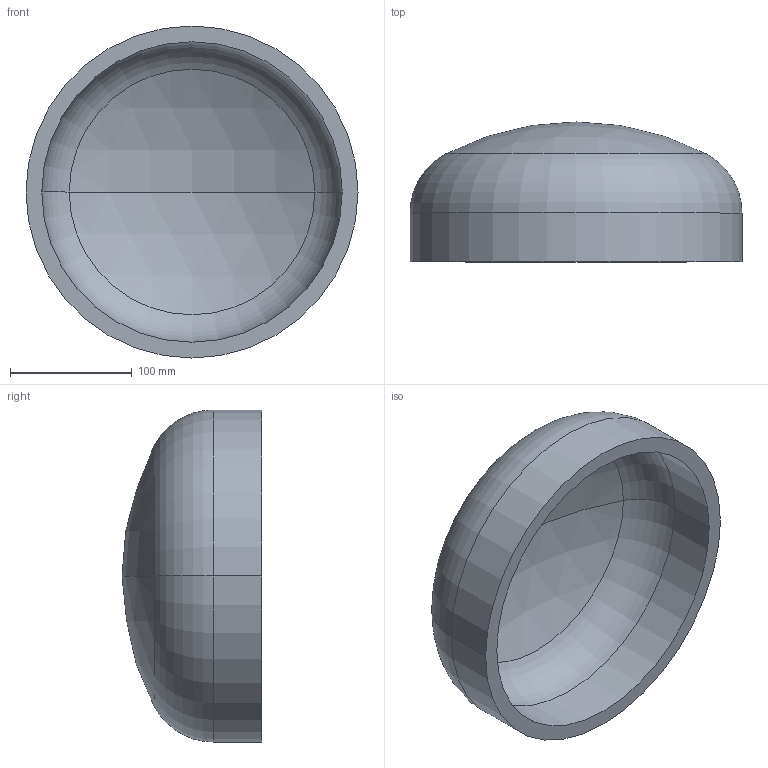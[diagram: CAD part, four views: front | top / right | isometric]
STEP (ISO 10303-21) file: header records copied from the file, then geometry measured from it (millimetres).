
FILE_DESCRIPTION (( 'STEP AP203' ), '1' );
FILE_NAME ('DIN 28013 Korbbogenform_-_Boden DIN 28013 - 273 x 40 - I - s=13.step', '2016-07-01T07:43:12', ( '' ), ( '' ), 'SwSTEP 2.0', 'SolidWorks 2013', '' );
FILE_SCHEMA (( 'CONFIG_CONTROL_DESIGN' ));
Length unit declared in the file: millimetre
Products named in the file (1): DIN 28013 Korbbogenform_-_Boden DIN 28013 - 273 x 40 - I - s=13
Bounding box: 273 x 115.01 x 273 mm (x, y, z)
Volume: 1415881.6 mm3; surface area: 228800.4 mm2
Topology: 1 solids, 1 shells, 13 faces, 24 edges, 14 vertices
Faces by surface type: torus 4, cylinder 4, sphere 4, plane 1
Entity records: 407 total; most frequent: DIRECTION 72, CARTESIAN_POINT 52, ORIENTED_EDGE 48, AXIS2_PLACEMENT_3D 34, EDGE_CURVE 24, CIRCLE 20, VERTEX_POINT 14, EDGE_LOOP 14
